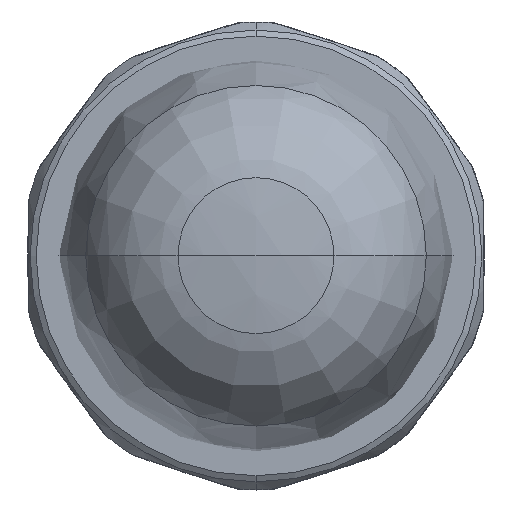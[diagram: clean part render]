
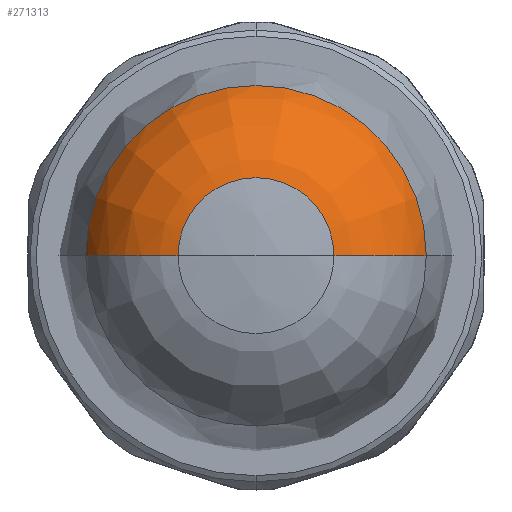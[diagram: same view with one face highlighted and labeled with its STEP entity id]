
A CAD part, top view. The second image highlights one B-rep face of the part: STEP entity #271313.
In plain terms, the highlighted face is a revolution surface.
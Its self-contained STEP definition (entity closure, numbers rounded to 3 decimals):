
#271031=CARTESIAN_POINT('',(-19.813,0.,
138.913));
#271032=CARTESIAN_POINT('',(-19.91,0.,
138.685));
#271033=CARTESIAN_POINT('',(-20.002,0.,
138.456));
#271034=CARTESIAN_POINT('',(-20.087,0.,
138.226));
#271036=CARTESIAN_POINT('',(-9.196,0.,
147.517));
#271037=CARTESIAN_POINT('',(-10.357,0.,
147.301));
#271038=CARTESIAN_POINT('',(-12.704,0.,
146.557));
#271039=CARTESIAN_POINT('',(-15.937,0.,
144.475));
#271040=CARTESIAN_POINT('',(-18.349,0.,
141.787));
#271041=CARTESIAN_POINT('',(-19.429,0.,
139.809));
#271042=CARTESIAN_POINT('',(-19.813,0.,
138.913));
#271044=CARTESIAN_POINT('',(19.813,0.,
138.913));
#271045=CARTESIAN_POINT('',(19.429,0.,
139.809));
#271046=CARTESIAN_POINT('',(18.349,0.,
141.787));
#271047=CARTESIAN_POINT('',(15.937,0.,
144.475));
#271048=CARTESIAN_POINT('',(12.704,0.,
146.557));
#271049=CARTESIAN_POINT('',(10.357,0.,
147.301));
#271050=CARTESIAN_POINT('',(9.196,0.,
147.517));
#271052=CARTESIAN_POINT('',(20.087,0.,
138.226));
#271053=CARTESIAN_POINT('',(20.002,0.,
138.456));
#271054=CARTESIAN_POINT('',(19.91,0.,
138.685));
#271055=CARTESIAN_POINT('',(19.813,0.,
138.913));
#271062=CARTESIAN_POINT('',(0.,0.,138.226));
#271063=DIRECTION('',(0.,0.,1.));
#271064=DIRECTION('',(1.,0.,0.));
#271065=AXIS2_PLACEMENT_3D('',#271062,#271063,#271064);
#271067=CARTESIAN_POINT('',(0.,0.,147.517));
#271068=DIRECTION('',(0.,0.,1.));
#271069=DIRECTION('',(1.,0.,0.));
#271070=AXIS2_PLACEMENT_3D('',#271067,#271068,#271069);
#271072=CARTESIAN_POINT('',(0.,0.,147.517));
#271073=DIRECTION('',(0.,0.,1.));
#271074=DIRECTION('',(0.,1.,0.));
#271075=AXIS2_PLACEMENT_3D('',#271072,#271073,#271074);
#271122=CARTESIAN_POINT('',(9.196,0.,
147.517));
#271124=VERTEX_POINT('',#271122);
#271125=CARTESIAN_POINT('',(-9.196,0.,
147.517));
#271126=VERTEX_POINT('',#271125);
#271129=VERTEX_POINT('',#271042);
#271130=VERTEX_POINT('',#271044);
#271133=CARTESIAN_POINT('',(0.,9.196,
147.517));
#271134=VERTEX_POINT('',#271133);
#271141=CARTESIAN_POINT('',(-20.087,0.,
138.226));
#271142=CARTESIAN_POINT('',(20.087,0.,
138.226));
#271143=VERTEX_POINT('',#271141);
#271144=VERTEX_POINT('',#271142);
#271288=CARTESIAN_POINT('',(0.,20.138,
138.086));
#271289=CARTESIAN_POINT('',(0.,20.121,
138.133));
#271290=CARTESIAN_POINT('',(0.,19.691,
139.313));
#271291=CARTESIAN_POINT('',(0.,18.524,
141.593));
#271292=CARTESIAN_POINT('',(0.,15.937,
144.475));
#271293=CARTESIAN_POINT('',(0.,12.704,
146.557));
#271294=CARTESIAN_POINT('',(0.,10.307,
147.317));
#271295=CARTESIAN_POINT('',(0.,9.098,
147.535));
#271296=CARTESIAN_POINT('',(0.,9.049,
147.544));
#271298=CARTESIAN_POINT('',(0.,0.,128.593));
#271299=DIRECTION('',(0.,0.,1.));
#271300=AXIS1_PLACEMENT('',#271298,#271299);
#271301=SURFACE_OF_REVOLUTION('',#271297,#271300);
#271302=ORIENTED_EDGE('',*,*,#271213,.F.);
#271303=ORIENTED_EDGE('',*,*,#271282,.T.);
#271304=ORIENTED_EDGE('',*,*,#271280,.T.);
#271306=ORIENTED_EDGE('',*,*,#271305,.T.);
#271308=ORIENTED_EDGE('',*,*,#271307,.T.);
#271309=ORIENTED_EDGE('',*,*,#271274,.T.);
#271310=ORIENTED_EDGE('',*,*,#271272,.T.);
#271311=EDGE_LOOP('',(#271302,#271303,#271304,#271306,#271308,#271309,#271310));
#271312=FACE_OUTER_BOUND('',#271311,.F.);
#271313=ADVANCED_FACE('',(#271312),#271301,.T.);
#271035=B_SPLINE_CURVE_WITH_KNOTS('',3,(#271031,#271032,#271033,#271034),
.UNSPECIFIED.,.F.,.F.,(4,4),(0.,1.),.UNSPECIFIED.);
#271043=B_SPLINE_CURVE_WITH_KNOTS('',3,(#271036,#271037,#271038,#271039,#271040,
#271041,#271042),.UNSPECIFIED.,.F.,.F.,(4,1,1,1,4),(0.,0.263,
0.527,0.79,1.),.UNSPECIFIED.);
#271051=B_SPLINE_CURVE_WITH_KNOTS('',3,(#271044,#271045,#271046,#271047,#271048,
#271049,#271050),.UNSPECIFIED.,.F.,.F.,(4,1,1,1,4),(0.,0.21,
0.473,0.737,1.),.UNSPECIFIED.);
#271056=B_SPLINE_CURVE_WITH_KNOTS('',3,(#271052,#271053,#271054,#271055),
.UNSPECIFIED.,.F.,.F.,(4,4),(0.,1.),.UNSPECIFIED.);
#271066=CIRCLE('',#271065,20.087);
#271071=CIRCLE('',#271070,9.196);
#271076=CIRCLE('',#271075,9.196);
#271213=EDGE_CURVE('',#271144,#271143,#271066,.T.);
#271272=EDGE_CURVE('',#271129,#271143,#271035,.T.);
#271274=EDGE_CURVE('',#271126,#271129,#271043,.T.);
#271280=EDGE_CURVE('',#271130,#271124,#271051,.T.);
#271282=EDGE_CURVE('',#271144,#271130,#271056,.T.);
#271297=B_SPLINE_CURVE_WITH_KNOTS('',3,(#271288,#271289,#271290,#271291,#271292,
#271293,#271294,#271295,#271296),.UNSPECIFIED.,.F.,.F.,(4,1,1,1,1,1,4),(0.,
0.01,0.255,0.5,0.745,
0.99,1.),.UNSPECIFIED.);
#271305=EDGE_CURVE('',#271124,#271134,#271071,.T.);
#271307=EDGE_CURVE('',#271134,#271126,#271076,.T.);
